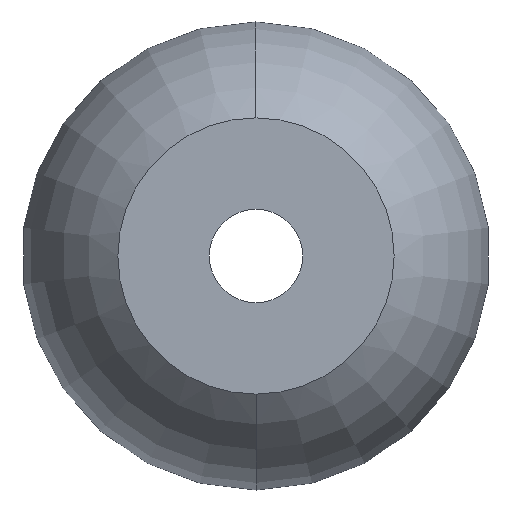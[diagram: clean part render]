
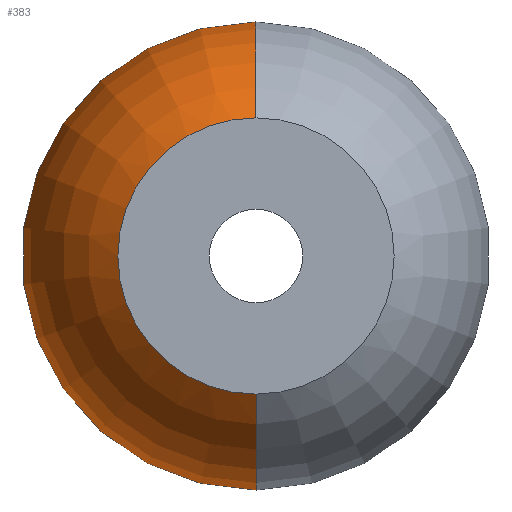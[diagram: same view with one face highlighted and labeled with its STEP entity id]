
A CAD part, left-side view. The second image highlights one B-rep face of the part: STEP entity #383.
In plain terms, the highlighted toroidal (fillet/blend) face has major radius 0.043 mm and minor radius 11 mm.
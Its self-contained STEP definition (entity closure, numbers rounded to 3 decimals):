
#26 = DIRECTION ( 'NONE',  ( 0., 0., -1. ) ) ;
#46 = ORIENTED_EDGE ( 'NONE', *, *, #461, .T. ) ;
#72 = ORIENTED_EDGE ( 'NONE', *, *, #501, .T. ) ;
#76 = EDGE_CURVE ( 'NONE', #562, #394, #571, .T. ) ;
#105 = DIRECTION ( 'NONE',  ( 1., 0., 0. ) ) ;
#146 = EDGE_CURVE ( 'NONE', #394, #296, #345, .T. ) ;
#176 = FACE_OUTER_BOUND ( 'NONE', #203, .T. ) ;
#183 = CARTESIAN_POINT ( 'NONE',  ( -46., 0., 0. ) ) ;
#197 = DIRECTION ( 'NONE',  ( 0., 0., 1. ) ) ;
#202 = CARTESIAN_POINT ( 'NONE',  ( -53.595, 0., 0.043 ) ) ;
#203 = EDGE_LOOP ( 'NONE', ( #46, #72, #468, #586 ) ) ;
#233 = TOROIDAL_SURFACE ( 'NONE', #475, 0.043, 11. ) ;
#257 = CARTESIAN_POINT ( 'NONE',  ( -46., 0., -8. ) ) ;
#262 = CARTESIAN_POINT ( 'NONE',  ( -62.5, 0., 0. ) ) ;
#265 = DIRECTION ( 'NONE',  ( 0., 0., -1. ) ) ;
#296 = VERTEX_POINT ( 'NONE', #498 ) ;
#297 = CARTESIAN_POINT ( 'NONE',  ( -62.5, 0., 6.5 ) ) ;
#315 = AXIS2_PLACEMENT_3D ( 'NONE', #262, #564, #265 ) ;
#322 = DIRECTION ( 'NONE',  ( 0., 0., -1. ) ) ;
#334 = CARTESIAN_POINT ( 'NONE',  ( -53.595, 0., -0.043 ) ) ;
#345 = CIRCLE ( 'NONE', #433, 8. ) ;
#365 = CARTESIAN_POINT ( 'NONE',  ( -53.595, 0., 0. ) ) ;
#377 = AXIS2_PLACEMENT_3D ( 'NONE', #202, #527, #197 ) ;
#383 = ADVANCED_FACE ( 'NONE', ( #176 ), #233, .T. ) ;
#394 = VERTEX_POINT ( 'NONE', #257 ) ;
#403 = AXIS2_PLACEMENT_3D ( 'NONE', #334, #541, #26 ) ;
#433 = AXIS2_PLACEMENT_3D ( 'NONE', #183, #446, #642 ) ;
#446 = DIRECTION ( 'NONE',  ( 1., 0., 0. ) ) ;
#449 = CIRCLE ( 'NONE', #315, 6.5 ) ;
#461 = EDGE_CURVE ( 'NONE', #562, #639, #449, .T. ) ;
#462 = CARTESIAN_POINT ( 'NONE',  ( -62.5, 0., -6.5 ) ) ;
#465 = CIRCLE ( 'NONE', #377, 11. ) ;
#468 = ORIENTED_EDGE ( 'NONE', *, *, #146, .F. ) ;
#475 = AXIS2_PLACEMENT_3D ( 'NONE', #365, #105, #322 ) ;
#498 = CARTESIAN_POINT ( 'NONE',  ( -46., 0., 8. ) ) ;
#501 = EDGE_CURVE ( 'NONE', #639, #296, #465, .T. ) ;
#527 = DIRECTION ( 'NONE',  ( 0., 1., 0. ) ) ;
#541 = DIRECTION ( 'NONE',  ( 0., -1., 0. ) ) ;
#562 = VERTEX_POINT ( 'NONE', #462 ) ;
#564 = DIRECTION ( 'NONE',  ( 1., 0., 0. ) ) ;
#571 = CIRCLE ( 'NONE', #403, 11. ) ;
#586 = ORIENTED_EDGE ( 'NONE', *, *, #76, .F. ) ;
#639 = VERTEX_POINT ( 'NONE', #297 ) ;
#642 = DIRECTION ( 'NONE',  ( 0., 0., -1. ) ) ;
